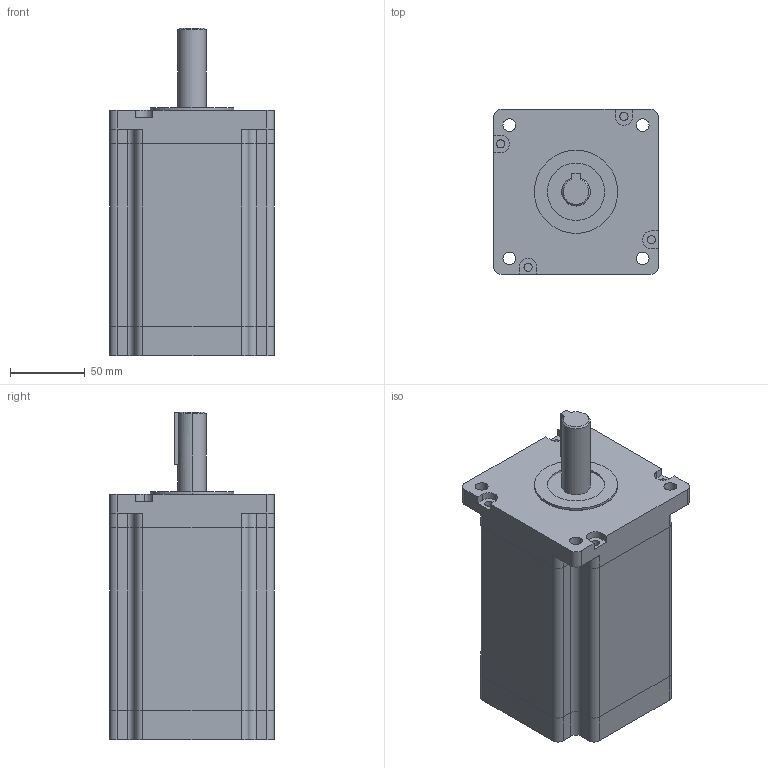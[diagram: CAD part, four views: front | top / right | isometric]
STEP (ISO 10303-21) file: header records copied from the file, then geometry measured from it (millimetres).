
FILE_DESCRIPTION (( 'STEP AP214' ), '1' );
FILE_NAME ('JK110HS165-6004-01J.STEP', '2019-12-19T08:26:01', ( 'Win7_64' ), ( 'Win7_64' ), 'SwSTEP 2.0', 'SolidWorks 2016', '' );
FILE_SCHEMA (( 'AUTOMOTIVE_DESIGN' ));
Length unit declared in the file: millimetre
Products named in the file (5): JK.006.110.001F; JK.006.110.001B; 110-122.1 隅赽; JK110HS165-6004-01J; 19X55-J6X35
Assembly tree (4 placements, depth 2):
  JK110HS165-6004-01J
    110-122.1 隅赽
    JK.006.110.001B
    JK.006.110.001F
    19X55-J6X35
Bounding box: 110 x 110 x 218.9 mm (x, y, z)
Volume: 1638575.9 mm3; surface area: 167932.1 mm2
Topology: 4 solids, 4 shells, 167 faces, 448 edges, 298 vertices
Faces by surface type: cylinder 91, plane 73, cone 3
Entity records: 5633 total; most frequent: DIRECTION 981, CARTESIAN_POINT 926, ORIENTED_EDGE 896, EDGE_CURVE 448, AXIS2_PLACEMENT_3D 361, VERTEX_POINT 298, LINE 259, VECTOR 259
